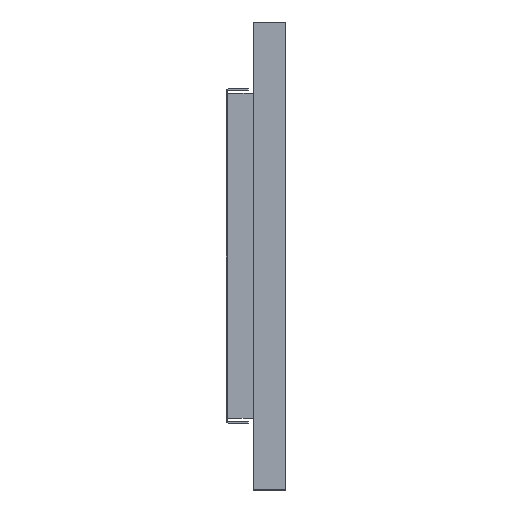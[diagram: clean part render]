
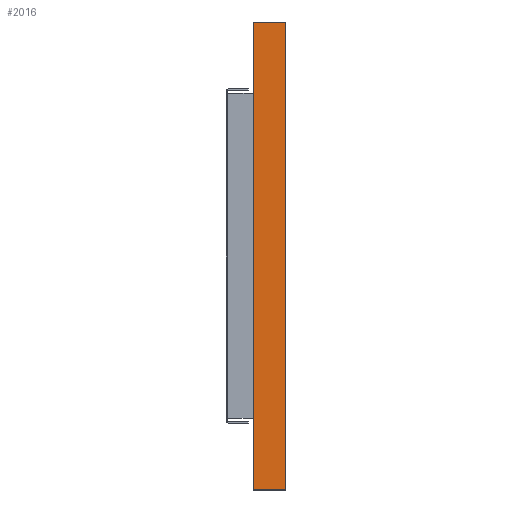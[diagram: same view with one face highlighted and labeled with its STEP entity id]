
A CAD part, left-side view. The second image highlights one B-rep face of the part: STEP entity #2016.
In plain terms, the highlighted planar face has unit normal (-1, 0, 0).
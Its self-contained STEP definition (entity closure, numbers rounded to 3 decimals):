
#7 = ORIENTED_EDGE ( 'NONE', *, *, #1763, .T. ) ;
#194 = FACE_OUTER_BOUND ( 'NONE', #3284, .T. ) ;
#271 = ORIENTED_EDGE ( 'NONE', *, *, #1220, .T. ) ;
#529 = CARTESIAN_POINT ( 'NONE',  ( -258.592, -7.233, 36. ) ) ;
#757 = LINE ( 'NONE', #4275, #1700 ) ;
#992 = VERTEX_POINT ( 'NONE', #3852 ) ;
#1078 = CARTESIAN_POINT ( 'NONE',  ( -258.592, -7.233, 36. ) ) ;
#1220 = EDGE_CURVE ( 'NONE', #2805, #2517, #4128, .T. ) ;
#1256 = PLANE ( 'NONE',  #2874 ) ;
#1466 = CARTESIAN_POINT ( 'NONE',  ( -258.592, -12.233, 36. ) ) ;
#1610 = CARTESIAN_POINT ( 'NONE',  ( -258.592, -7.233, -36. ) ) ;
#1700 = VECTOR ( 'NONE', #2817, 1000. ) ;
#1750 = DIRECTION ( 'NONE',  ( 1., 0., 0. ) ) ;
#1763 = EDGE_CURVE ( 'NONE', #992, #2805, #757, .T. ) ;
#1877 = ORIENTED_EDGE ( 'NONE', *, *, #2434, .F. ) ;
#1976 = CARTESIAN_POINT ( 'NONE',  ( -258.592, -12.233, -36. ) ) ;
#2016 = ADVANCED_FACE ( 'NONE', ( #194 ), #1256, .F. ) ;
#2074 = DIRECTION ( 'NONE',  ( 0., 0., -1. ) ) ;
#2125 = LINE ( 'NONE', #1078, #3419 ) ;
#2434 = EDGE_CURVE ( 'NONE', #992, #3916, #3478, .T. ) ;
#2517 = VERTEX_POINT ( 'NONE', #1466 ) ;
#2678 = CARTESIAN_POINT ( 'NONE',  ( -258.592, -12.233, -36. ) ) ;
#2805 = VERTEX_POINT ( 'NONE', #2678 ) ;
#2817 = DIRECTION ( 'NONE',  ( 0., -1., 0. ) ) ;
#2874 = AXIS2_PLACEMENT_3D ( 'NONE', #1610, #1750, #2074 ) ;
#3029 = DIRECTION ( 'NONE',  ( 0., 0., 1. ) ) ;
#3284 = EDGE_LOOP ( 'NONE', ( #271, #4073, #1877, #7 ) ) ;
#3419 = VECTOR ( 'NONE', #3577, 1000. ) ;
#3478 = LINE ( 'NONE', #3805, #3924 ) ;
#3577 = DIRECTION ( 'NONE',  ( 0., -1., 0. ) ) ;
#3805 = CARTESIAN_POINT ( 'NONE',  ( -258.592, -7.233, -36. ) ) ;
#3852 = CARTESIAN_POINT ( 'NONE',  ( -258.592, -7.233, -36. ) ) ;
#3916 = VERTEX_POINT ( 'NONE', #529 ) ;
#3924 = VECTOR ( 'NONE', #3029, 1000. ) ;
#4073 = ORIENTED_EDGE ( 'NONE', *, *, #4335, .F. ) ;
#4128 = LINE ( 'NONE', #1976, #4330 ) ;
#4275 = CARTESIAN_POINT ( 'NONE',  ( -258.592, -7.233, -36. ) ) ;
#4330 = VECTOR ( 'NONE', #4422, 1000. ) ;
#4335 = EDGE_CURVE ( 'NONE', #3916, #2517, #2125, .T. ) ;
#4422 = DIRECTION ( 'NONE',  ( 0., 0., 1. ) ) ;
